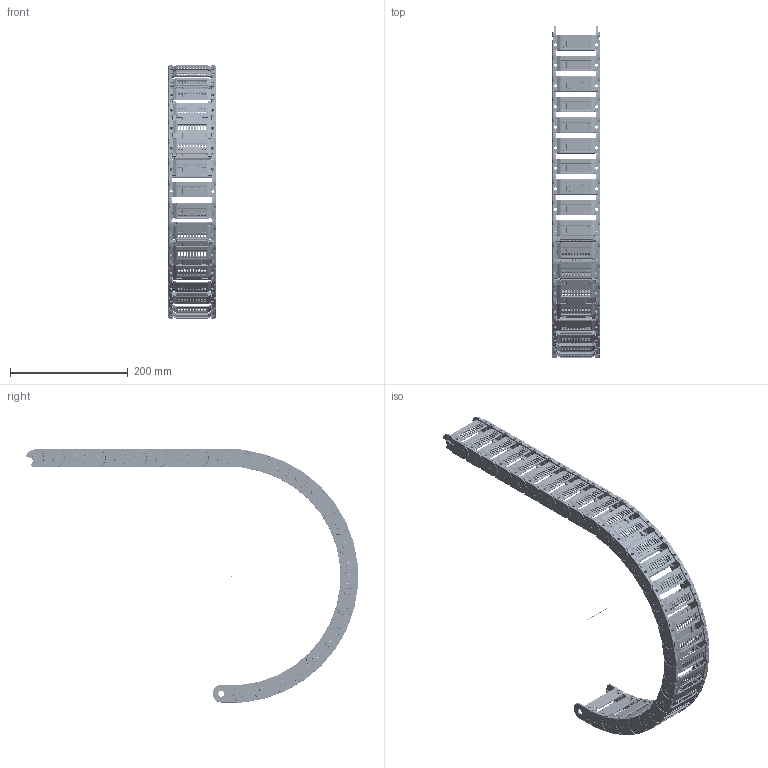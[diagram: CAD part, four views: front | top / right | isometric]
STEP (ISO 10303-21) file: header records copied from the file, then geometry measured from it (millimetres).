
FILE_DESCRIPTION((''),'2;1');
FILE_NAME('C:\Uebbing\PARAMETERKETTEN\KOLIBRI\Kol_30_080_0\KOLIBRI 30_080_0_R200.stp','2012-03-05T10:12:59',('Uebbing'),(''),'Autodesk Inventor 10','Autodesk Inventor 10','');
FILE_SCHEMA(('AUTOMOTIVE_DESIGN { 1 0 10303 214 1 1 1 1 }'));
Length unit declared in the file: millimetre
Products named in the file (5): KOLIBRI 30_080_0_PARAMETRISCH; Achse; Kol_30_080_0 Glied; Kol 30_080_0 Lasche; Kol 30_080_0 Klappsteg
Assembly tree (31 placements, depth 3):
  KOLIBRI 30_080_0_PARAMETRISCH
    Achse
    Kol_30_080_0 Glied  x28
      Kol 30_080_0 Lasche
      Kol 30_080_0 Klappsteg
Bounding box: 80 x 563.76 x 430 mm (x, y, z)
Volume: 515041.2 mm3; surface area: 478394.9 mm2
Topology: 57 solids, 57 shells, 28339 faces, 77648 edges, 50179 vertices
Faces by surface type: bspline 11284, plane 11062, cylinder 4537, torus 1092, cone 280, sphere 84
Full cylindrical faces by diameter (mm): 1 x1, 1.166 x28, 2.048 x28, 2.8 x168, 5.1 x28, 10 x28, 10.1 x28
Entity records: 39065 total; most frequent: CARTESIAN_POINT 14786, ORIENTED_EDGE 5468, DIRECTION 4289, EDGE_CURVE 2734, VERTEX_POINT 1781, VECTOR 1623, LINE 1623, AXIS2_PLACEMENT_3D 1333
